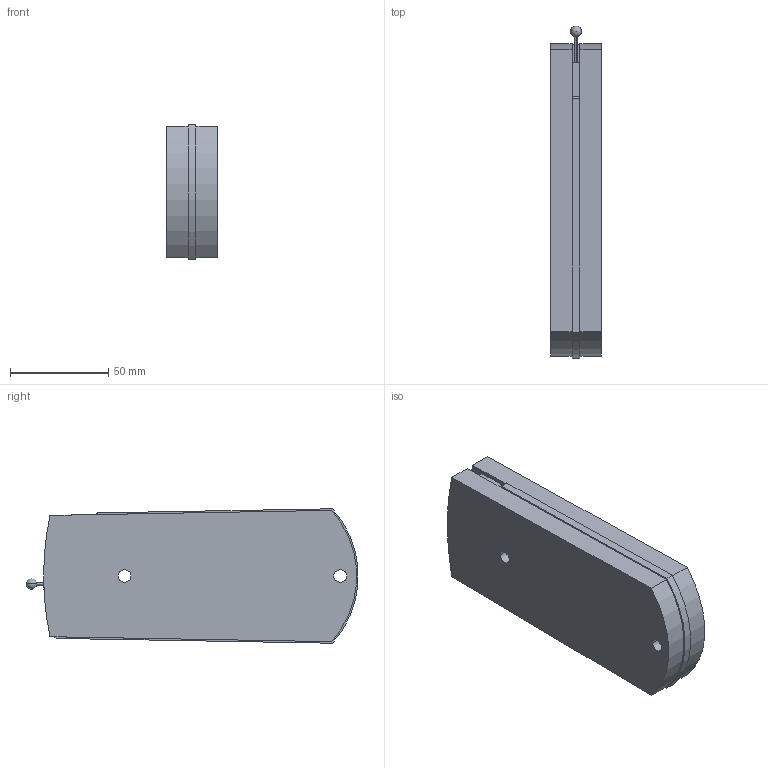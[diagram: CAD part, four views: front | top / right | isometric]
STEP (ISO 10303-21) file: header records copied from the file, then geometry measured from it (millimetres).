
FILE_DESCRIPTION (( 'STEP AP214' ), '1' );
FILE_NAME ('D-S_Klappenhalter.STEP', '2017-09-21T08:35:55', ( '' ), ( '' ), 'SwSTEP 2.0', 'SolidWorks 2015', '' );
FILE_SCHEMA (( 'AUTOMOTIVE_DESIGN' ));
Length unit declared in the file: millimetre
Products named in the file (1): D-S_Klappenhalter
Bounding box: 26 x 169.33 x 68.56 mm (x, y, z)
Volume: 257290.1 mm3; surface area: 33372 mm2
Topology: 1 solids, 1 shells, 31 faces, 86 edges, 56 vertices
Faces by surface type: plane 15, cylinder 14, sphere 2
Entity records: 1007 total; most frequent: DIRECTION 179, CARTESIAN_POINT 166, ORIENTED_EDGE 162, EDGE_CURVE 81, AXIS2_PLACEMENT_3D 66, VERTEX_POINT 53, LINE 47, VECTOR 47
